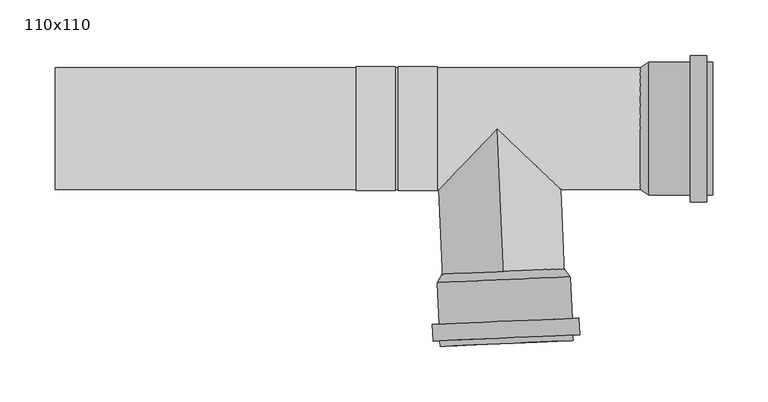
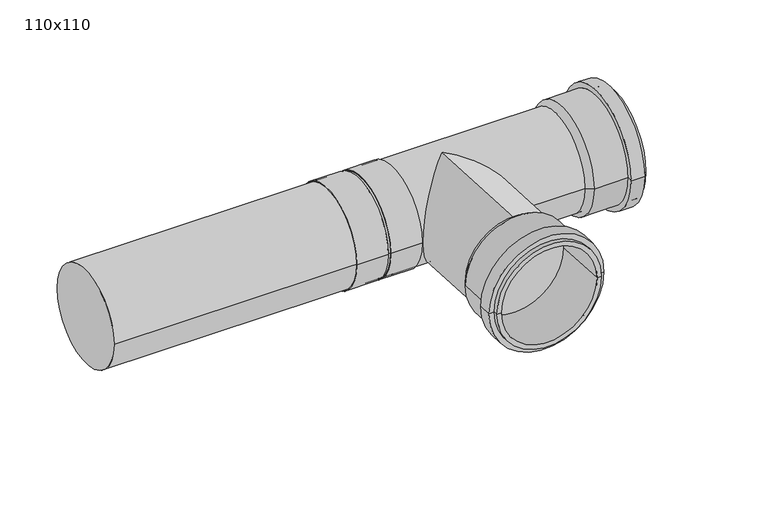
"""IFC4 building model written with IfcOpenShell, lengths in millimetres: pipe fitting geometry, AliaxisFR_Friaphon_ExtendedBranch_FR : 110x110."""

from ifc_helpers import new_model, si_unit, point, frame, origin, origin_2d, place, context, project, spatial, polyline, circle_curve, ellipse_curve, trimmed, segment, composite_curve, outline, extrude, source, transform, mapped, element, save
from ifc_brep_helpers import plane_surface, cylinder_surface, revolved_surface, advanced_brep


def pipe_fitting_110x110_000de9d7(model_context):
    return source(origin(), model_context, "Body", "SolidModel", [
        extrude(outline(composite_curve([segment(trimmed(circle_curve(origin_2d(), 56.0), [point((-56.0, 0.0))], [point((56.0, 0.0))], False, "CARTESIAN"), True, "CONTINUOUS"), segment(trimmed(circle_curve(origin_2d(), 56.0), [point((56.0, 0.0))], [point((-56.0, 0.0))], False, "CARTESIAN"), True, "CONTINUOUS")], self_intersect=False), holes=[composite_curve([segment(trimmed(circle_curve(origin_2d(), 55.0), [point((-55.0, 0.0))], [point((55.0, 0.0))], True, "CARTESIAN"), True, "CONTINUOUS"), segment(trimmed(circle_curve(origin_2d(), 55.0), [point((55.0, 0.0))], [point((-55.0, 0.0))], True, "CARTESIAN"), True, "CONTINUOUS")], self_intersect=False)]), frame((-89.0, 0.0, 0.0), z_axis=(1.0, 0.0, 0.0), x_axis=(0.0, 1.0, 0.0)), (0.0, 0.0, 1.0), 35.0),
        extrude(outline(composite_curve([segment(trimmed(circle_curve(origin_2d(), 55.0), [point((-55.0, 0.0))], [point((55.0, 0.0))], False, "CARTESIAN"), True, "CONTINUOUS"), segment(trimmed(circle_curve(origin_2d(), 55.0), [point((55.0, 0.0))], [point((-55.0, 0.0))], False, "CARTESIAN"), True, "CONTINUOUS")], self_intersect=False)), frame((-92.0, 0.0, 0.0), z_axis=(1.0, 0.0, 0.0), x_axis=(0.0, 1.0, 0.0)), (0.0, 0.0, 1.0), 3.0),
        extrude(outline(composite_curve([segment(trimmed(circle_curve(origin_2d(), 56.0), [point((-56.0, 0.0))], [point((56.0, 0.0))], False, "CARTESIAN"), True, "CONTINUOUS"), segment(trimmed(circle_curve(origin_2d(), 56.0), [point((56.0, 0.0))], [point((-56.0, 0.0))], False, "CARTESIAN"), True, "CONTINUOUS")], self_intersect=False), holes=[composite_curve([segment(trimmed(circle_curve(origin_2d(), 55.0), [point((-55.0, 0.0))], [point((55.0, 0.0))], True, "CARTESIAN"), True, "CONTINUOUS"), segment(trimmed(circle_curve(origin_2d(), 55.0), [point((55.0, 0.0))], [point((-55.0, 0.0))], True, "CARTESIAN"), True, "CONTINUOUS")], self_intersect=False)]), frame((-127.0, 0.0, 0.0), z_axis=(1.0, 0.0, 0.0), x_axis=(0.0, 1.0, 0.0)), (0.0, 0.0, 1.0), 35.0),
        advanced_brep(
        [(-51.4807321, -196.4325182, 0.0), (68.4050544, -191.1981917, 0.0), (63.4098133, -191.4162887, 0.0), (-46.485491, -196.2144213, 0.0), (-58.3474092, -176.7132701, 0.0), (73.526956, -170.955511, 0.0), (74.1812468, -185.9412343, 0.0), (-57.6931184, -191.6989934, 0.0), (-52.3531199, -176.4515538, 0.0), (67.5326667, -171.2172273, 0.0), (-53.9888469, -138.9872455, 0.0), (65.8969397, -133.752919, 0.0), (60.5745532, -126.4781543, 0.0), (-49.3207512, -131.2762869, 0.0), (-51.6988291, -191.4372771, 0.0), (68.1869575, -186.2029506, 0.0)],
        [
            (0, 1, circle_curve(frame((8.4621611, -193.815355, 0.0), z_axis=(0.043619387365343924, -0.9990482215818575, 0.0), x_axis=(0.9990482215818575, 0.043619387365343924, 0.0)), 60.0)),
            (1, 2),
            (2, 3, circle_curve(frame((8.4621611, -193.815355, 0.0), z_axis=(-0.043619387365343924, 0.9990482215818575, 0.0), x_axis=(0.9990482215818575, 0.043619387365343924, 0.0)), 55.0)),
            (3, 0),
            (1, 0, circle_curve(frame((8.4621611, -193.815355, 0.0), z_axis=(0.043619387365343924, -0.9990482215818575, 0.0), x_axis=(0.9990482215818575, 0.043619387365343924, 0.0)), 60.0)),
            (3, 2, circle_curve(frame((8.4621611, -193.815355, 0.0), z_axis=(-0.043619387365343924, 0.9990482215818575, 0.0), x_axis=(0.9990482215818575, 0.043619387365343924, 0.0)), 55.0)),
            (4, 5, circle_curve(frame((7.5897734, -173.8343906, 0.0), z_axis=(0.043619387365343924, -0.9990482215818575, 0.0), x_axis=(0.9990482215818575, 0.043619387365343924, 0.0)), 66.0)),
            (5, 6),
            (6, 7, circle_curve(frame((8.2440642, -188.8201139, 0.0), z_axis=(-0.043619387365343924, 0.9990482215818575, 0.0), x_axis=(0.9990482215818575, 0.043619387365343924, 0.0)), 66.0)),
            (7, 4),
            (5, 4, circle_curve(frame((7.5897734, -173.8343906, 0.0), z_axis=(0.043619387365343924, -0.9990482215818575, 0.0), x_axis=(0.9990482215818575, 0.043619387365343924, 0.0)), 66.0)),
            (7, 6, circle_curve(frame((8.2440642, -188.8201139, 0.0), z_axis=(-0.043619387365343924, 0.9990482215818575, 0.0), x_axis=(0.9990482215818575, 0.043619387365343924, 0.0)), 66.0)),
            (8, 9, circle_curve(frame((7.5897734, -173.8343906, 0.0), z_axis=(0.043619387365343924, -0.9990482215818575, 0.0), x_axis=(0.9990482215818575, 0.043619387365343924, 0.0)), 60.0)),
            (9, 5),
            (4, 8),
            (9, 8, circle_curve(frame((7.5897734, -173.8343906, 0.0), z_axis=(0.043619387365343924, -0.9990482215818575, 0.0), x_axis=(0.9990482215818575, 0.043619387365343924, 0.0)), 60.0)),
            (10, 11, circle_curve(frame((5.9540464, -136.3700822, 0.0), z_axis=(0.043619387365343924, -0.9990482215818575, 0.0), x_axis=(0.9990482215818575, 0.043619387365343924, 0.0)), 60.0)),
            (11, 9),
            (8, 10),
            (11, 10, circle_curve(frame((5.9540464, -136.3700822, 0.0), z_axis=(0.043619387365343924, -0.9990482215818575, 0.0), x_axis=(0.9990482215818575, 0.043619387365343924, 0.0)), 60.0)),
            (2, 12),
            (12, 13, circle_curve(frame((5.626901, -128.8772206, 0.0), z_axis=(-0.043619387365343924, 0.9990482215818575, 0.0), x_axis=(0.9990482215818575, 0.043619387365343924, 0.0)), 55.0)),
            (13, 3),
            (13, 12, circle_curve(frame((5.626901, -128.8772206, 0.0), z_axis=(-0.043619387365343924, 0.9990482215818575, 0.0), x_axis=(0.9990482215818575, 0.043619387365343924, 0.0)), 55.0)),
            (12, 11),
            (10, 13),
            (14, 15, circle_curve(frame((8.2440642, -188.8201139, 0.0), z_axis=(0.043619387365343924, -0.9990482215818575, 0.0), x_axis=(0.9990482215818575, 0.043619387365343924, 0.0)), 60.0)),
            (15, 1),
            (0, 14),
            (15, 14, circle_curve(frame((8.2440642, -188.8201139, 0.0), z_axis=(0.043619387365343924, -0.9990482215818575, 0.0), x_axis=(0.9990482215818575, 0.043619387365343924, 0.0)), 60.0)),
            (6, 15),
            (14, 7),
        ],
        [
            plane_surface(frame((8.4621611, -193.815355, 0.0), z_axis=(0.043619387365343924, -0.9990482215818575, 0.0), x_axis=(0.9990482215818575, 0.043619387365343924, 0.0))),
            cylinder_surface(frame((5.626901, -128.8772206, 0.0), z_axis=(-0.043619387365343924, 0.9990482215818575, 0.0), x_axis=(0.9990482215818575, 0.043619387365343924, 0.0)), 66.0),
            plane_surface(frame((7.5897734, -173.8343906, 0.0), z_axis=(-0.043619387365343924, 0.9990482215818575, 0.0), x_axis=(0.9990482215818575, 0.043619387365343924, 0.0))),
            cylinder_surface(frame((5.626901, -128.8772206, 0.0), z_axis=(-0.043619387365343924, 0.9990482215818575, 0.0), x_axis=(0.9990482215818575, 0.043619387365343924, 0.0)), 60.0),
            revolved_surface(polyline([(60.57455318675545, -126.47815428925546, 0.0), (63.40981336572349, -191.41628869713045, 0.0)]), (5.626901, -128.8772206, 0.0), (-0.043619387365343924, 0.9990482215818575, 0.0)),
            revolved_surface(polyline([(65.8969397, -133.752919, 0.0), (60.5745532, -126.4781543, 0.0)]), (5.626901, -128.8772206, 0.0), (-0.043619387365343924, 0.9990482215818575, 0.0)),
            plane_surface(frame((8.2440642, -188.8201139, 0.0), z_axis=(0.043619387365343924, -0.9990482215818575, 0.0), x_axis=(0.9990482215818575, 0.043619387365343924, 0.0))),
        ],
        [
            (0, [[1, 2, 3, 4]]),
            (0, [[5, -4, 6, -2]]),
            (1, [[7, 8, 9, 10]]),
            (1, [[11, -10, 12, -8]]),
            (2, [[13, 14, -7, 15]]),
            (2, [[16, -15, -11, -14]]),
            (3, [[17, 18, -13, 19]]),
            (3, [[20, -19, -16, -18]]),
            (4, [[-3, 21, 22, 23]]),
            (4, [[-6, -23, 24, -21]]),
            (5, [[-22, 25, -17, 26]]),
            (5, [[-24, -26, -20, -25]]),
            (3, [[27, 28, -1, 29]]),
            (3, [[30, -29, -5, -28]]),
            (6, [[-9, 31, -27, 32]]),
            (6, [[-12, -32, -30, -31]]),
        ],
    ),
        advanced_brep(
        [(194.0, -60.0, 0.0), (194.0, 60.0, 0.0), (194.0, 55.0, 0.0), (194.0, -55.0, 0.0), (174.0, -66.0, 0.0), (174.0, 66.0, 0.0), (189.0, 66.0, 0.0), (189.0, -66.0, 0.0), (174.0, -60.0, 0.0), (174.0, 60.0, 0.0), (136.5, -60.0, 0.0), (136.5, 60.0, 0.0), (129.0, 55.0, 0.0), (129.0, -55.0, 0.0), (189.0, -60.0, 0.0), (189.0, 60.0, 0.0)],
        [
            (0, 1, circle_curve(frame((194.0, 0.0, 0.0), z_axis=(1.0, 0.0, 0.0), x_axis=(0.0, 1.0, 0.0)), 60.0)),
            (1, 2),
            (2, 3, circle_curve(frame((194.0, 0.0, 0.0), z_axis=(-1.0, 0.0, 0.0), x_axis=(0.0, 1.0, 0.0)), 55.0)),
            (3, 0),
            (1, 0, circle_curve(frame((194.0, 0.0, 0.0), z_axis=(1.0, 0.0, 0.0), x_axis=(0.0, 1.0, 0.0)), 60.0)),
            (3, 2, circle_curve(frame((194.0, 0.0, 0.0), z_axis=(-1.0, 0.0, 0.0), x_axis=(0.0, 1.0, 0.0)), 55.0)),
            (4, 5, circle_curve(frame((174.0, 0.0, 0.0), z_axis=(1.0, 0.0, 0.0), x_axis=(0.0, 1.0, 0.0)), 66.0)),
            (5, 6),
            (6, 7, circle_curve(frame((189.0, 0.0, 0.0), z_axis=(-1.0, 0.0, 0.0), x_axis=(0.0, 1.0, 0.0)), 66.0)),
            (7, 4),
            (5, 4, circle_curve(frame((174.0, 0.0, 0.0), z_axis=(1.0, 0.0, 0.0), x_axis=(0.0, 1.0, 0.0)), 66.0)),
            (7, 6, circle_curve(frame((189.0, 0.0, 0.0), z_axis=(-1.0, 0.0, 0.0), x_axis=(0.0, 1.0, 0.0)), 66.0)),
            (8, 9, circle_curve(frame((174.0, 0.0, 0.0), z_axis=(1.0, 0.0, 0.0), x_axis=(0.0, 1.0, 0.0)), 60.0)),
            (9, 5),
            (4, 8),
            (9, 8, circle_curve(frame((174.0, 0.0, 0.0), z_axis=(1.0, 0.0, 0.0), x_axis=(0.0, 1.0, 0.0)), 60.0)),
            (10, 11, circle_curve(frame((136.5, 0.0, 0.0), z_axis=(1.0, 0.0, 0.0), x_axis=(0.0, 1.0, 0.0)), 60.0)),
            (11, 9),
            (8, 10),
            (11, 10, circle_curve(frame((136.5, 0.0, 0.0), z_axis=(1.0, 0.0, 0.0), x_axis=(0.0, 1.0, 0.0)), 60.0)),
            (2, 12),
            (12, 13, circle_curve(frame((129.0, 0.0, 0.0), z_axis=(-1.0, 0.0, 0.0), x_axis=(0.0, 1.0, 0.0)), 55.0)),
            (13, 3),
            (13, 12, circle_curve(frame((129.0, 0.0, 0.0), z_axis=(-1.0, 0.0, 0.0), x_axis=(0.0, 1.0, 0.0)), 55.0)),
            (12, 11),
            (10, 13),
            (14, 15, circle_curve(frame((189.0, 0.0, 0.0), z_axis=(1.0, 0.0, 0.0), x_axis=(0.0, 1.0, 0.0)), 60.0)),
            (15, 1),
            (0, 14),
            (15, 14, circle_curve(frame((189.0, 0.0, 0.0), z_axis=(1.0, 0.0, 0.0), x_axis=(0.0, 1.0, 0.0)), 60.0)),
            (6, 15),
            (14, 7),
        ],
        [
            plane_surface(frame((194.0, 0.0, 0.0), z_axis=(1.0, 0.0, 0.0), x_axis=(0.0, 1.0, 0.0))),
            cylinder_surface(frame((129.0, 0.0, 0.0), z_axis=(-1.0, 0.0, 0.0), x_axis=(0.0, 1.0, 0.0)), 66.0),
            plane_surface(frame((174.0, 0.0, 0.0), z_axis=(-1.0, 0.0, 0.0), x_axis=(0.0, 1.0, 0.0))),
            cylinder_surface(frame((129.0, 0.0, 0.0), z_axis=(-1.0, 0.0, 0.0), x_axis=(0.0, 1.0, 0.0)), 60.0),
            revolved_surface(polyline([(129.0, 55.0, 0.0), (194.0, 55.0, 0.0)]), (129.0, 0.0, 0.0), (-1.0, 0.0, 0.0)),
            revolved_surface(polyline([(136.5, 60.0, 0.0), (129.0, 55.0, 0.0)]), (129.0, 0.0, 0.0), (-1.0, 0.0, 0.0)),
            plane_surface(frame((189.0, 0.0, 0.0), z_axis=(1.0, 0.0, 0.0), x_axis=(0.0, 1.0, 0.0))),
        ],
        [
            (0, [[1, 2, 3, 4]]),
            (0, [[5, -4, 6, -2]]),
            (1, [[7, 8, 9, 10]]),
            (1, [[11, -10, 12, -8]]),
            (2, [[13, 14, -7, 15]]),
            (2, [[16, -15, -11, -14]]),
            (3, [[17, 18, -13, 19]]),
            (3, [[20, -19, -16, -18]]),
            (4, [[-3, 21, 22, 23]]),
            (4, [[-6, -23, 24, -21]]),
            (5, [[-22, 25, -17, 26]]),
            (5, [[-24, -26, -20, -25]]),
            (3, [[27, 28, -1, 29]]),
            (3, [[30, -29, -5, -28]]),
            (6, [[-9, 31, -27, 32]]),
            (6, [[-12, -32, -30, -31]]),
        ],
    ),
        extrude(outline(composite_curve([segment(trimmed(circle_curve(origin_2d(), 55.0), [point((-55.0, 0.0))], [point((55.0, 0.0))], False, "CARTESIAN"), True, "CONTINUOUS"), segment(trimmed(circle_curve(origin_2d(), 55.0), [point((55.0, 0.0))], [point((-55.0, 0.0))], False, "CARTESIAN"), True, "CONTINUOUS")], self_intersect=False)), frame((-398.0, 0.0, 0.0), z_axis=(1.0, 0.0, 0.0), x_axis=(0.0, 1.0, 0.0)), (0.0, 0.0, 1.0), 306.0),
        advanced_brep(
        [(134.0, -55.0, 0.0), (134.0, 55.0, 0.0), (-89.0, -55.0, 0.0), (-89.0, 55.0, 0.0), (57.4537495, -55.0, 0.0), (0.0, 0.0, -55.0), (-52.6510458, -55.0, 0.0), (0.0, 0.0, 55.0), (5.8449979, -133.8724617, -55.0), (5.8449979, -133.8724617, 55.0)],
        [
            (0, 1, circle_curve(frame((134.0, 0.0, 0.0), z_axis=(1.0, 0.0, 0.0), x_axis=(0.0, 1.0, 0.0)), 55.0)),
            (1, 0, circle_curve(frame((134.0, 0.0, 0.0), z_axis=(1.0, 0.0, 0.0), x_axis=(0.0, 1.0, 0.0)), 55.0)),
            (2, 3, circle_curve(frame((-89.0, 0.0, 0.0), z_axis=(-1.0, 0.0, 0.0), x_axis=(0.0, 1.0, 0.0)), 55.0)),
            (3, 2, circle_curve(frame((-89.0, 0.0, 0.0), z_axis=(-1.0, 0.0, 0.0), x_axis=(0.0, 1.0, 0.0)), 55.0)),
            (0, 4),
            (4, 5, ellipse_curve(frame((0.0, 0.0, 0.0), z_axis=(0.6915130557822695, 0.7223639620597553, 0.0), x_axis=(0.7223639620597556, -0.6915130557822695, 0.0)), 79.5357362, 55.0)),
            (5, 6, ellipse_curve(frame((0.0, 0.0, 0.0), z_axis=(-0.7223639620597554, 0.6915130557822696, 0.0), x_axis=(0.6915130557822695, 0.7223639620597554, 0.0)), 76.1389035, 55.0)),
            (6, 2),
            (3, 1),
            (6, 7, ellipse_curve(frame((0.0, 0.0, 0.0), z_axis=(-0.7223639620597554, 0.6915130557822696, 0.0), x_axis=(0.6915130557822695, 0.7223639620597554, 0.0)), 76.1389035, 55.0)),
            (7, 4, ellipse_curve(frame((0.0, 0.0, 0.0), z_axis=(0.6915130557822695, 0.7223639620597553, 0.0), x_axis=(0.7223639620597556, -0.6915130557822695, 0.0)), 79.5357362, 55.0)),
            (8, 9, circle_curve(frame((5.8449979, -133.8724617, 0.0), z_axis=(0.04361938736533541, -0.9990482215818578, 0.0), x_axis=(0.0, 0.0, 1.0)), 55.0)),
            (9, 8, circle_curve(frame((5.8449979, -133.8724617, 0.0), z_axis=(0.04361938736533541, -0.9990482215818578, 0.0), x_axis=(0.0, 0.0, 1.0)), 55.0)),
            (8, 5),
            (7, 9),
        ],
        [
            plane_surface(frame((134.0, 55.0, 0.0), z_axis=(1.0, 0.0, 0.0), x_axis=(0.0, 0.0, 1.0))),
            plane_surface(frame((-89.0, 55.0, 0.0), z_axis=(-1.0, 0.0, 0.0), x_axis=(0.0, 0.0, -1.0))),
            cylinder_surface(frame((-89.0, 0.0, 0.0), z_axis=(1.0, 0.0, 0.0), x_axis=(0.0, 1.0, 0.0)), 55.0),
            plane_surface(frame((5.8449979, -133.8724617, 55.0), z_axis=(0.04361938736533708, -0.9990482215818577, 0.0), x_axis=(-0.9990482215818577, -0.04361938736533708, 0.0))),
            cylinder_surface(frame((5.8449979, -133.8724617, 0.0), z_axis=(-0.04361938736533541, 0.9990482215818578, 0.0), x_axis=(0.0, 0.0, 1.0)), 55.0),
        ],
        [
            (0, [[1, 2]]),
            (1, [[3, 4]]),
            (2, [[-1, 5, 6, 7, 8, -4, 9]]),
            (2, [[-2, -9, -3, -8, 10, 11, -5]]),
            (3, [[12, 13]]),
            (4, [[-12, 14, -6, -11, 15]]),
            (4, [[-13, -15, -10, -7, -14]]),
        ],
    ),
    ])


if __name__ == "__main__":
    model = new_model("IFC4")
    model_context = context("Model", 3, world=origin())
    ifc_project = project(units=[si_unit("LENGTHUNIT", "METRE", prefix="MILLI")], contexts=[model_context])
    site = spatial("IfcSite", under=ifc_project)
    building = spatial("IfcBuilding", under=site)
    placement = place(None, origin())
    pipe_fitting_110x110_shape = pipe_fitting_110x110_000de9d7(model_context)
    element("IfcPipeFitting", 1, ObjectType="AliaxisFR_Friaphon_ExtendedBranch_FR : 110x110", at=placement, inside=building, context=model_context, shape_type="MappedRepresentation", body=[
        mapped(pipe_fitting_110x110_shape, transform((0.0, 0.0, 0.0), x_axis=(1.0, 0.0, 0.0), y_axis=(0.0, 1.0, 0.0), z_axis=(0.0, 0.0, 1.0))),
    ])
    save(model, "model.ifc")
